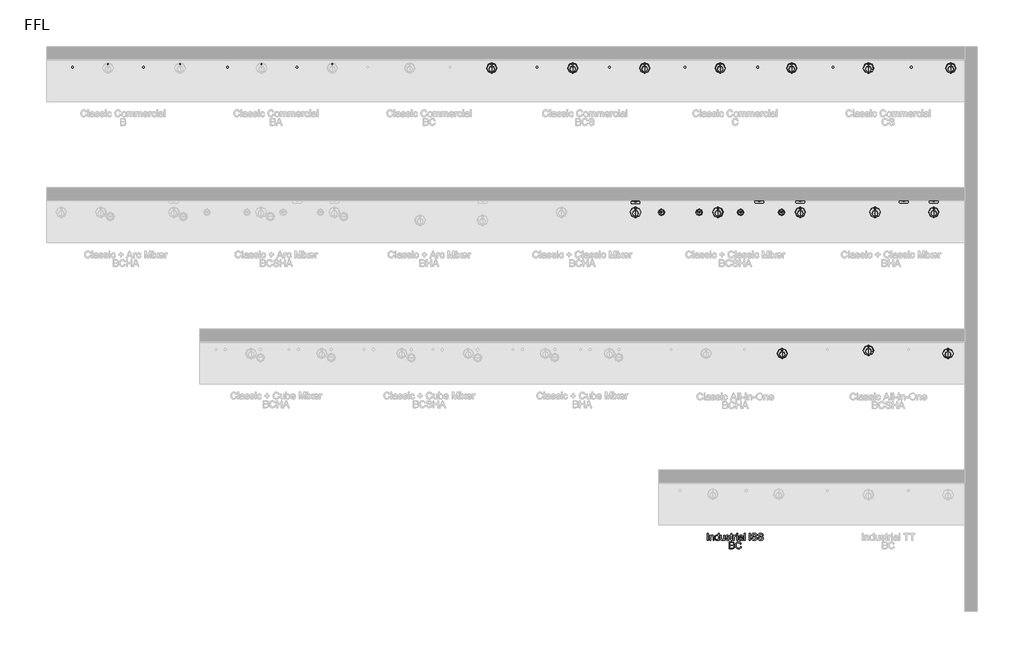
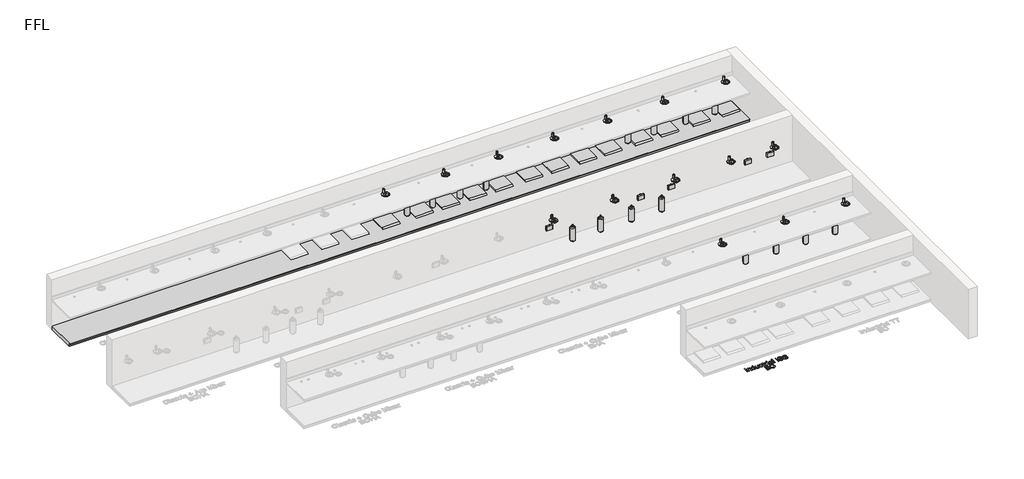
# One storey, part 4 of 13: 61 flow terminals, 1 furniture element, 1 proxy.
"""IFC4 building model written with IfcOpenShell, lengths in millimetres."""

from ifc_helpers import new_model, si_unit, origin, origin_with_axes, place, context, project, spatial, polyline, outline, extrude, transform, mapped, element, save
from components import flow_terminal_1fd3c137, bcs_and_bc_6de74493, bright_chrome_07e2d693, co2_gas_cylinder_20234e14, generic_plinth_900mm_a81356e5

model = new_model("IFC4")

# Units and contexts
model_context = context("Model", 3, world=origin())
ifc_project = project(units=[si_unit("LENGTHUNIT", "METRE", prefix="MILLI")], contexts=[model_context])

# Site, building, storey
site = spatial("IfcSite", under=ifc_project)
building = spatial("IfcBuilding", under=site)
storey = spatial("IfcBuildingStorey", under=building, Name="FFL", Elevation=0.0)

# Proxy
placement = place(None, origin())
element("IfcBuildingElementProxy", 1, Name="150mm Arial", ObjectType="150mm Arial", at=placement, inside=storey, context=model_context, shape_type="SweptSolid", body=[
    extrude(outline(polyline([(7062.8534255, -2376.1981691), (7062.8534255, -2228.5058614), (7081.314964, -2228.5058614), (7081.314964, -2376.1981691), (7062.8534255, -2376.1981691)])), origin_with_axes(), (0.0, 0.0, 1.0), 5.0),
    extrude(outline(polyline([(7115.9303486, -2376.1981691), (7115.9303486, -2267.7366307), (7134.3918871, -2267.7366307), (7134.3918871, -2282.8808614), (7148.5084736, -2269.7919191), (7167.7813102, -2265.4289383), (7185.2152044, -2268.9445633), (7197.1142428, -2278.1753326), (7202.6490986, -2291.7510537), (7203.6226563, -2309.5996114), (7203.6226563, -2376.1981691), (7185.1611178, -2376.1981691), (7185.1611178, -2312.0875922), (7183.033714, -2295.7534576), (7175.5156852, -2287.1176403), (7162.8414063, -2283.8904768), (7152.0286058, -2285.7023758), (7142.8113582, -2291.138073), (7136.4967549, -2301.6398758), (7134.3918871, -2318.6500922), (7134.3918871, -2376.1981691), (7115.9303486, -2376.1981691)])), origin_with_axes(), (0.0, 0.0, 1.0), 5.0),
    extrude(outline(polyline([(7295.9303486, -2376.1981691), (7295.9303486, -2358.7823037), (7283.7158053, -2373.574972), (7266.8317909, -2378.5058614), (7254.8966948, -2376.7210057), (7243.971214, -2371.3664383), (7234.7224159, -2362.8162581), (7227.8173678, -2351.4445633), (7223.517488, -2337.7110898), (7222.0841948, -2322.075573), (7227.3666467, -2292.6885537), (7233.9652044, -2281.0329047), (7243.1959736, -2272.4601883), (7254.3603366, -2267.1867508), (7266.7596755, -2265.4289383), (7283.7789063, -2270.4589864), (7295.9303486, -2283.5298999), (7295.9303486, -2228.5058614), (7314.3918871, -2228.5058614), (7314.3918871, -2376.1981691), (7295.9303486, -2376.1981691)]), holes=[polyline([(7240.5457332, -2322.0034576), (7242.628065, -2338.7026763), (7248.8750602, -2350.5791787), (7257.9525842, -2357.6780369), (7268.5265025, -2360.044323), (7279.0959135, -2357.78621), (7287.9435698, -2351.011871), (7293.9336539, -2339.5951042), (7295.9303486, -2323.4097076), (7293.8975962, -2305.7143951), (7287.799339, -2293.4457653), (7278.7263222, -2286.2792989), (7267.7692909, -2283.8904768), (7257.0871996, -2286.1846475), (7248.3341948, -2293.0671595), (7242.4928486, -2304.8895754), (7240.5457332, -2322.0034576)])]), origin_with_axes(), (0.0, 0.0, 1.0), 5.0),
    extrude(outline(polyline([(7411.314964, -2376.1981691), (7411.314964, -2357.5563422), (7396.8558294, -2373.2684816), (7377.9976563, -2378.5058614), (7360.6358775, -2374.8279768), (7348.6647236, -2365.5972076), (7343.1659255, -2352.0034576), (7342.0841948, -2334.839996), (7342.0841948, -2267.7366307), (7360.5457332, -2267.7366307), (7360.5457332, -2326.1500922), (7361.6635217, -2344.9722076), (7368.9652044, -2356.0238903), (7382.721214, -2360.044323), (7398.1358775, -2355.933746), (7408.3221755, -2344.7378326), (7411.314964, -2324.1669191), (7411.314964, -2267.7366307), (7429.7765025, -2267.7366307), (7429.7765025, -2376.1981691), (7411.314964, -2376.1981691)])), origin_with_axes(), (0.0, 0.0, 1.0), 5.0),
    extrude(outline(polyline([(7448.2380409, -2343.8904768), (7466.6995794, -2341.5827845), (7469.611238, -2349.4794191), (7475.2452525, -2355.2847076), (7494.8245794, -2360.044323), (7513.6466948, -2355.6813422), (7519.7765025, -2345.4409576), (7513.6106371, -2337.1476883), (7494.6082332, -2331.8832653), (7466.8077525, -2322.8508133), (7454.674339, -2312.3039383), (7450.5457332, -2297.4121114), (7453.8630409, -2283.6561018), (7462.9135217, -2273.1452845), (7474.6503005, -2267.6825441), (7490.533714, -2265.4289383), (7512.9976563, -2269.0527364), (7527.2765025, -2278.8604287), (7533.6226563, -2295.4289383), (7515.1611178, -2297.7366307), (7508.2200121, -2287.5503326), (7491.9760217, -2283.8904768), (7474.3077525, -2287.388073), (7469.0072717, -2295.5371114), (7471.2067909, -2300.9097076), (7478.0938102, -2304.9842268), (7493.9952525, -2308.9145153), (7521.0926082, -2317.6044191), (7533.6767428, -2327.4481691), (7538.2380409, -2343.4938422), (7532.8834736, -2361.1621114), (7517.4327525, -2373.980621), (7494.5721755, -2378.5058614), (7475.9573919, -2376.324371), (7462.3726563, -2369.7798999), (7453.3041467, -2358.9445633), (7448.2380409, -2343.8904768)])), origin_with_axes(), (0.0, 0.0, 1.0), 5.0),
    extrude(outline(polyline([(7598.2380409, -2360.8015345), (7600.5457332, -2376.7390345), (7586.7356371, -2378.5058614), (7571.2668871, -2375.4409576), (7563.5505409, -2367.4000922), (7561.314964, -2346.450573), (7561.314964, -2286.1981691), (7547.4688102, -2286.1981691), (7547.4688102, -2267.7366307), (7561.314964, -2267.7366307), (7561.314964, -2241.3784576), (7579.7765025, -2230.5250922), (7579.7765025, -2267.7366307), (7598.2380409, -2267.7366307), (7598.2380409, -2286.1981691), (7579.7765025, -2286.1981691), (7579.7765025, -2345.9097076), (7580.7500602, -2355.4289383), (7583.9051082, -2358.8003326), (7590.1971755, -2360.044323), (7598.2380409, -2360.8015345)])), origin_with_axes(), (0.0, 0.0, 1.0), 5.0),
    extrude(outline(polyline([(7616.6995794, -2376.1981691), (7616.6995794, -2267.7366307), (7632.8534255, -2267.7366307), (7632.8534255, -2283.7823037), (7644.3197717, -2268.9986499), (7655.8582332, -2265.4289383), (7674.3918871, -2271.1260537), (7668.2260217, -2287.6765345), (7655.2452525, -2283.8904768), (7644.8065505, -2287.5323037), (7638.1539063, -2297.6284576), (7635.1611178, -2319.1909576), (7635.1611178, -2376.1981691), (7616.6995794, -2376.1981691)])), origin_with_axes(), (0.0, 0.0, 1.0), 5.0),
    extrude(outline(polyline([(7685.9303486, -2376.1981691), (7685.9303486, -2267.7366307), (7704.3918871, -2267.7366307), (7704.3918871, -2376.1981691), (7685.9303486, -2376.1981691)])), origin_with_axes(), (0.0, 0.0, 1.0), 5.0),
    extrude(outline(polyline([(7685.9303486, -2246.9673999), (7685.9303486, -2228.5058614), (7704.3918871, -2228.5058614), (7704.3918871, -2246.9673999), (7685.9303486, -2246.9673999)])), origin_with_axes(), (0.0, 0.0, 1.0), 5.0),
    extrude(outline(polyline([(7801.314964, -2362.3520153), (7783.4123198, -2374.8640345), (7763.6346755, -2378.5058614), (7748.2064904, -2376.3153566), (7736.8257813, -2369.7438422), (7729.8080529, -2359.7648758), (7727.4688102, -2347.3520153), (7731.002464, -2332.7486499), (7740.2873198, -2322.1476883), (7753.2140025, -2316.089996), (7769.1875602, -2313.3135537), (7801.2067909, -2306.9673999), (7801.314964, -2302.856823), (7800.0439303, -2294.6176403), (7796.2308294, -2289.2270153), (7787.7031852, -2285.2246114), (7775.8221755, -2283.8904768), (7757.1442909, -2287.4421595), (7748.2380409, -2300.044323), (7729.7765025, -2297.7366307), (7737.7632813, -2279.7077845), (7753.8450121, -2269.1428807), (7778.2019832, -2265.4289383), (7800.5757813, -2268.7101883), (7813.2140025, -2276.949371), (7818.8750602, -2289.4794191), (7819.7765025, -2305.6332653), (7819.7765025, -2328.6020153), (7820.7140025, -2360.6753326), (7824.3918871, -2376.1981691), (7805.9303486, -2376.1981691), (7801.314964, -2362.3520153)]), holes=[polyline([(7801.314964, -2325.4289383), (7771.5313102, -2331.089996), (7755.6478967, -2334.0827845), (7748.4543871, -2338.950573), (7745.9303486, -2346.0539383), (7751.4291467, -2356.0419191), (7767.564964, -2360.044323), (7786.2428486, -2355.6272557), (7798.2861178, -2344.9361499), (7801.2067909, -2330.6573037), (7801.314964, -2325.4289383)])]), origin_with_axes(), (0.0, 0.0, 1.0), 5.0),
    extrude(outline(polyline([(7845.1611178, -2376.1981691), (7845.1611178, -2228.5058614), (7863.6226563, -2228.5058614), (7863.6226563, -2376.1981691), (7845.1611178, -2376.1981691)])), origin_with_axes(), (0.0, 0.0, 1.0), 5.0),
    extrude(outline(polyline([(7953.6226563, -2376.1981691), (7953.6226563, -2228.5058614), (7972.0841948, -2228.5058614), (7972.0841948, -2376.1981691), (7953.6226563, -2376.1981691)])), origin_with_axes(), (0.0, 0.0, 1.0), 5.0),
    extrude(outline(polyline([(8002.0841948, -2325.4289383), (8020.5457332, -2325.4289383), (8026.4952525, -2343.9085057), (8041.0265025, -2355.591198), (8063.1659255, -2360.044323), (8082.4567909, -2356.6729287), (8094.9147236, -2347.4061018), (8099.0072717, -2335.0202845), (8095.9423678, -2323.4998518), (8083.3942909, -2315.1164383), (8056.5132813, -2308.0671595), (8027.5769832, -2298.9625922), (8011.8738582, -2285.2246114), (8006.6995794, -2266.871246), (8008.2996395, -2256.0584456), (8013.0998198, -2245.9758133), (8020.9739183, -2237.4301403), (8031.7957332, -2231.2282172), (8059.1635217, -2226.1981691), (8088.3702525, -2231.4625922), (8099.5661659, -2237.9619912), (8107.8414063, -2246.9313422), (8113.0787861, -2257.8117508), (8115.1611178, -2270.044323), (8096.6995794, -2270.044323), (8093.3101563, -2259.028698), (8086.2428486, -2251.0779768), (8075.2001803, -2246.2642749), (8059.8846755, -2244.6597076), (8044.2085938, -2246.246246), (8033.4543871, -2251.0058614), (8027.2344352, -2258.0100682), (8025.1611178, -2266.3303807), (8026.6304688, -2273.4247316), (8031.0385217, -2279.1308614), (8061.1827525, -2289.4433614), (8093.8510217, -2298.7101883), (8104.3753606, -2305.4079047), (8111.7176082, -2313.6741307), (8117.4688102, -2334.5515345), (8115.8146635, -2345.9322436), (8110.8522236, -2356.636871), (8102.784315, -2365.8496114), (8091.8137621, -2372.7546595), (8063.8870794, -2378.5058614), (8045.7996395, -2376.9553807), (8030.9123198, -2372.3039383), (8019.0538462, -2364.5335057), (8010.0529448, -2353.6260537), (8004.2746996, -2340.3387941), (8002.0841948, -2325.4289383)])), origin_with_axes(), (0.0, 0.0, 1.0), 5.0),
    extrude(outline(polyline([(8138.2380409, -2325.4289383), (8156.6995794, -2325.4289383), (8162.6490986, -2343.9085057), (8177.1803486, -2355.591198), (8199.3197717, -2360.044323), (8218.6106371, -2356.6729287), (8231.0685698, -2347.4061018), (8235.1611178, -2335.0202845), (8232.096214, -2323.4998518), (8219.5481371, -2315.1164383), (8192.6671275, -2308.0671595), (8163.7308294, -2298.9625922), (8148.0277044, -2285.2246114), (8142.8534255, -2266.871246), (8144.4534856, -2256.0584456), (8149.2536659, -2245.9758133), (8157.1277645, -2237.4301403), (8167.9495794, -2231.2282172), (8195.3173678, -2226.1981691), (8224.5240986, -2231.4625922), (8235.7200121, -2237.9619912), (8243.9952525, -2246.9313422), (8249.2326323, -2257.8117508), (8251.314964, -2270.044323), (8232.8534255, -2270.044323), (8229.4640025, -2259.028698), (8222.3966948, -2251.0779768), (8211.3540265, -2246.2642749), (8196.0385217, -2244.6597076), (8180.36244, -2246.246246), (8169.6082332, -2251.0058614), (8163.3882813, -2258.0100682), (8161.314964, -2266.3303807), (8162.784315, -2273.4247316), (8167.1923678, -2279.1308614), (8197.3365986, -2289.4433614), (8230.0048678, -2298.7101883), (8240.5292068, -2305.4079047), (8247.8714544, -2313.6741307), (8253.6226563, -2334.5515345), (8251.9685097, -2345.9322436), (8247.0060698, -2356.636871), (8238.9381611, -2365.8496114), (8227.9676082, -2372.7546595), (8200.0409255, -2378.5058614), (8181.9534856, -2376.9553807), (8167.0661659, -2372.3039383), (8155.2076924, -2364.5335057), (8146.2067909, -2353.6260537), (8140.4285457, -2340.3387941), (8138.2380409, -2325.4289383)])), origin_with_axes(), (0.0, 0.0, 1.0), 5.0),
    extrude(outline(polyline([(7529.0072717, -2558.5058614), (7529.0072717, -2410.8135537), (7585.3654448, -2410.8135537), (7612.9676082, -2415.1585057), (7622.2434496, -2420.6708254), (7629.2656852, -2428.5178807), (7635.1611178, -2447.4121114), (7630.2031852, -2464.6657172), (7615.221214, -2477.7366307), (7625.682452, -2483.199371), (7633.4123198, -2491.5106691), (7638.1854568, -2502.1206451), (7639.7765025, -2514.4794191), (7635.4315505, -2534.3291787), (7624.6683294, -2548.4637941), (7608.6046275, -2555.9637941), (7584.9327525, -2558.5058614), (7529.0072717, -2558.5058614)]), holes=[polyline([(7547.4688102, -2540.044323), (7585.3293871, -2540.044323), (7599.0313102, -2539.3231691), (7610.6238582, -2535.3027364), (7618.3041467, -2527.0996114), (7621.314964, -2514.6597076), (7617.7813102, -2500.308746), (7606.3329928, -2491.7450441), (7583.5265025, -2489.2750922), (7547.4688102, -2489.2750922), (7547.4688102, -2540.044323)]), polyline([(7547.4688102, -2470.8135537), (7581.1827525, -2470.8135537), (7600.8702525, -2469.2270153), (7612.7152044, -2462.3940826), (7616.6995794, -2450.3688422), (7612.9856371, -2438.325573), (7602.3486178, -2431.2041787), (7578.6226563, -2429.2750922), (7547.4688102, -2429.2750922), (7547.4688102, -2470.8135537)])]), origin_with_axes(), (0.0, 0.0, 1.0), 5.0),
    extrude(outline(polyline([(7769.0072717, -2506.0058614), (7787.4688102, -2510.7654768), (7778.9501803, -2532.2783975), (7765.5817909, -2547.9950441), (7748.0216948, -2557.6089263), (7726.9279448, -2560.8135537), (7705.5141828, -2558.3886739), (7688.5084736, -2551.1140345), (7675.4736178, -2539.2420393), (7665.9724159, -2523.0250922), (7660.1716347, -2503.9595874), (7658.2380409, -2483.5419191), (7660.4240385, -2462.0064624), (7666.9820313, -2443.4097076), (7677.5694712, -2428.3420994), (7691.8438102, -2417.3940826), (7708.7728967, -2410.7279167), (7727.3245794, -2408.5058614), (7747.5664664, -2411.3814624), (7764.3017428, -2420.0082653), (7777.0075722, -2433.8544191), (7785.1611178, -2452.388073), (7766.6995794, -2456.7871114), (7760.299339, -2443.3240706), (7751.5553486, -2434.0887941), (7740.3594352, -2428.7477484), (7726.6034255, -2426.9673999), (7710.7470553, -2428.9415585), (7697.721214, -2434.8640345), (7687.8368991, -2444.1128326), (7681.4051082, -2456.0659576), (7676.6995794, -2483.5058614), (7682.2704928, -2515.308746), (7689.3918871, -2527.1852484), (7699.6142428, -2535.6272557), (7711.869351, -2540.6708254), (7725.0890025, -2542.3520153), (7740.4991587, -2540.0623518), (7753.3402044, -2533.1933614), (7763.0352164, -2521.8171595), (7769.0072717, -2506.0058614)])), origin_with_axes(), (0.0, 0.0, 1.0), 5.0),
])

# Flow terminals
flow_terminal_shape = flow_terminal_1fd3c137(model_context)
element("IfcFlowTerminal", 2, ObjectType="z_PlumFixt_Zenith_Booster : Booster", at=placement, inside=storey, context=model_context, shape_type="MappedRepresentation", body=[
    mapped(flow_terminal_shape, transform((4980.2647071, 7886.1893304, 538.0), x_axis=(1.0, 0.0, 0.0), y_axis=(0.0, 1.0, 0.0), z_axis=(0.0, 0.0, 1.0))),
])
element("IfcFlowTerminal", 3, ObjectType="z_PlumFixt_Zenith_Booster : Booster", at=placement, inside=storey, context=model_context, shape_type="MappedRepresentation", body=[
    mapped(flow_terminal_shape, transform((5730.2647071, 7886.1893304, 538.0), x_axis=(1.0, 0.0, 0.0), y_axis=(0.0, 1.0, 0.0), z_axis=(0.0, 0.0, 1.0))),
])
element("IfcFlowTerminal", 4, ObjectType="z_PlumFixt_Zenith_Booster : Booster", at=placement, inside=storey, context=model_context, shape_type="MappedRepresentation", body=[
    mapped(flow_terminal_shape, transform((12233.2647071, 7886.1893304, 538.0), x_axis=(1.0, 0.0, 0.0), y_axis=(0.0, 1.0, 0.0), z_axis=(0.0, 0.0, 1.0))),
])
element("IfcFlowTerminal", 5, ObjectType="z_PlumFixt_Zenith_Booster : Booster", at=placement, inside=storey, context=model_context, shape_type="MappedRepresentation", body=[
    mapped(flow_terminal_shape, transform((11393.2647071, 7886.1893304, 538.0), x_axis=(1.0, 0.0, 0.0), y_axis=(0.0, 1.0, 0.0), z_axis=(0.0, 0.0, 1.0))),
])
element("IfcFlowTerminal", 6, ObjectType="z_PlumFixt_Zenith_Booster : Booster", at=placement, inside=storey, context=model_context, shape_type="MappedRepresentation", body=[
    mapped(flow_terminal_shape, transform((10483.2647071, 7886.1893304, 538.0), x_axis=(1.0, 0.0, 0.0), y_axis=(0.0, 1.0, 0.0), z_axis=(0.0, 0.0, 1.0))),
])
element("IfcFlowTerminal", 7, ObjectType="z_PlumFixt_Zenith_Booster : Booster", at=placement, inside=storey, context=model_context, shape_type="MappedRepresentation", body=[
    mapped(flow_terminal_shape, transform((9733.2647071, 7886.1893304, 538.0), x_axis=(1.0, 0.0, 0.0), y_axis=(0.0, 1.0, 0.0), z_axis=(0.0, 0.0, 1.0))),
])
element("IfcFlowTerminal", 8, ObjectType="z_PlumFixt_Zenith_Booster : Booster", at=placement, inside=storey, context=model_context, shape_type="MappedRepresentation", body=[
    mapped(flow_terminal_shape, transform((8853.2647071, 7886.1893304, 538.0), x_axis=(1.0, 0.0, 0.0), y_axis=(0.0, 1.0, 0.0), z_axis=(0.0, 0.0, 1.0))),
])
element("IfcFlowTerminal", 9, ObjectType="z_PlumFixt_Zenith_Booster : Booster", at=placement, inside=storey, context=model_context, shape_type="MappedRepresentation", body=[
    mapped(flow_terminal_shape, transform((8133.2647071, 7886.1893304, 538.0), x_axis=(1.0, 0.0, 0.0), y_axis=(0.0, 1.0, 0.0), z_axis=(0.0, 0.0, 1.0))),
])
element("IfcFlowTerminal", 10, ObjectType="z_PlumFixt_Zenith_Booster : Booster", at=placement, inside=storey, context=model_context, shape_type="MappedRepresentation", body=[
    mapped(flow_terminal_shape, transform((5536.2647071, 4885.3893304, 498.0), x_axis=(1.0, 0.0, 0.0), y_axis=(0.0, 1.0, 0.0), z_axis=(0.0, 0.0, 1.0))),
])
element("IfcFlowTerminal", 11, ObjectType="z_PlumFixt_Zenith_Booster : Booster", at=placement, inside=storey, context=model_context, shape_type="MappedRepresentation", body=[
    mapped(flow_terminal_shape, transform((11873.2647071, 4901.1893304, 498.0), x_axis=(1.0, 0.0, 0.0), y_axis=(0.0, 1.0, 0.0), z_axis=(0.0, 0.0, 1.0))),
])
element("IfcFlowTerminal", 12, ObjectType="z_PlumFixt_Zenith_Booster : Booster", at=placement, inside=storey, context=model_context, shape_type="MappedRepresentation", body=[
    mapped(flow_terminal_shape, transform((11233.2647071, 4901.1893304, 498.0), x_axis=(1.0, 0.0, 0.0), y_axis=(0.0, 1.0, 0.0), z_axis=(0.0, 0.0, 1.0))),
])
element("IfcFlowTerminal", 13, ObjectType="z_PlumFixt_Zenith_Booster : Booster", at=placement, inside=storey, context=model_context, shape_type="MappedRepresentation", body=[
    mapped(flow_terminal_shape, transform((8652.2647071, 1885.3893304, 498.0), x_axis=(1.0, 0.0, 0.0), y_axis=(0.0, 1.0, 0.0), z_axis=(0.0, 0.0, 1.0))),
])
element("IfcFlowTerminal", 14, ObjectType="z_PlumFixt_Zenith_Booster : Booster", at=placement, inside=storey, context=model_context, shape_type="MappedRepresentation", body=[
    mapped(flow_terminal_shape, transform((12173.2647071, 1885.3893304, 498.0), x_axis=(1.0, 0.0, 0.0), y_axis=(0.0, 1.0, 0.0), z_axis=(0.0, 0.0, 1.0))),
])
element("IfcFlowTerminal", 15, ObjectType="z_PlumFixt_Zenith_Booster : Booster", at=placement, inside=storey, context=model_context, shape_type="MappedRepresentation", body=[
    mapped(flow_terminal_shape, transform((11332.2647071, 1885.3893304, 498.0), x_axis=(1.0, 0.0, 0.0), y_axis=(0.0, 1.0, 0.0), z_axis=(0.0, 0.0, 1.0))),
])
element("IfcFlowTerminal", 16, ObjectType="z_PlumFixt_Zenith_Booster : Booster", at=placement, inside=storey, context=model_context, shape_type="MappedRepresentation", body=[
    mapped(flow_terminal_shape, transform((2484.2647071, 7886.1893304, 538.0), x_axis=(1.0, 0.0, 0.0), y_axis=(0.0, 1.0, 0.0), z_axis=(0.0, 0.0, 1.0))),
])
element("IfcFlowTerminal", 17, ObjectType="z_PlumFixt_Zenith_Booster : Booster", at=placement, inside=storey, context=model_context, shape_type="MappedRepresentation", body=[
    mapped(flow_terminal_shape, transform((8166.2647071, 4901.1893304, 498.0), x_axis=(1.0, 0.0, 0.0), y_axis=(0.0, 1.0, 0.0), z_axis=(0.0, 0.0, 1.0))),
])
element("IfcFlowTerminal", 18, ObjectType="z_PlumFixt_Zenith_Booster : Booster", at=placement, inside=storey, context=model_context, shape_type="MappedRepresentation", body=[
    mapped(flow_terminal_shape, transform((9036.2647071, 4901.1893304, 498.0), x_axis=(1.0, 0.0, 0.0), y_axis=(0.0, 1.0, 0.0), z_axis=(0.0, 0.0, 1.0))),
])
bcs_and_bc_shape = bcs_and_bc_6de74493(model_context)
element("IfcFlowTerminal", 19, ObjectType="z_PlumFixt_Zenith_Vent Tray : BCS and BC", at=placement, inside=storey, context=model_context, shape_type="MappedRepresentation", body=[
    mapped(bcs_and_bc_shape, transform((3443.2647071, 7706.6893304, 100.0), x_axis=(1.0, 0.0, 0.0), y_axis=(0.0, 1.0, 0.0), z_axis=(0.0, 0.0, 1.0))),
])
element("IfcFlowTerminal", 20, ObjectType="z_PlumFixt_Zenith_Vent Tray : BCS and BC", at=placement, inside=storey, context=model_context, shape_type="MappedRepresentation", body=[
    mapped(bcs_and_bc_shape, transform((4202.2647071, 7706.6893304, 100.0), x_axis=(1.0, 0.0, 0.0), y_axis=(0.0, 1.0, 0.0), z_axis=(0.0, 0.0, 1.0))),
])
element("IfcFlowTerminal", 21, ObjectType="z_PlumFixt_Zenith_Vent Tray : BCS and BC", at=placement, inside=storey, context=model_context, shape_type="MappedRepresentation", body=[
    mapped(bcs_and_bc_shape, transform((4980.2647071, 7706.6893304, 100.0), x_axis=(1.0, 0.0, 0.0), y_axis=(0.0, 1.0, 0.0), z_axis=(0.0, 0.0, 1.0))),
])
element("IfcFlowTerminal", 22, ObjectType="z_PlumFixt_Zenith_Vent Tray : BCS and BC", at=placement, inside=storey, context=model_context, shape_type="MappedRepresentation", body=[
    mapped(bcs_and_bc_shape, transform((5730.2647071, 7706.6893304, 100.0), x_axis=(1.0, 0.0, 0.0), y_axis=(0.0, 1.0, 0.0), z_axis=(0.0, 0.0, 1.0))),
])
element("IfcFlowTerminal", 23, ObjectType="z_PlumFixt_Zenith_Vent Tray : BCS and BC", at=placement, inside=storey, context=model_context, shape_type="MappedRepresentation", body=[
    mapped(bcs_and_bc_shape, transform((2484.2647071, 7706.6893304, 100.0), x_axis=(1.0, 0.0, 0.0), y_axis=(0.0, 1.0, 0.0), z_axis=(0.0, 0.0, 1.0))),
])
bright_chrome_shape = bright_chrome_07e2d693(model_context)
element("IfcFlowTerminal", 24, ObjectType="z_PlumFixt_Zenith_Font and Tap Riser : Bright Chrome", at=placement, inside=storey, context=model_context, shape_type="MappedRepresentation", body=[
    mapped(bright_chrome_shape, transform((4203.2647071, 7645.4393304, 900.0), x_axis=(1.0, 0.0, 0.0), y_axis=(0.0, 1.0, 0.0), z_axis=(0.0, 0.0, 1.0))),
])
element("IfcFlowTerminal", 25, ObjectType="z_PlumFixt_Zenith_Font and Tap Riser : Bright Chrome", at=placement, inside=storey, context=model_context, shape_type="MappedRepresentation", body=[
    mapped(bright_chrome_shape, transform((10484.2647071, 7645.4393304, 900.0), x_axis=(1.0, 0.0, 0.0), y_axis=(0.0, 1.0, 0.0), z_axis=(0.0, 0.0, 1.0))),
])
element("IfcFlowTerminal", 26, ObjectType="z_PlumFixt_Zenith_Font and Tap Riser : Bright Chrome", at=placement, inside=storey, context=model_context, shape_type="MappedRepresentation", body=[
    mapped(bright_chrome_shape, transform((7334.2647071, 7645.4393304, 900.0), x_axis=(1.0, 0.0, 0.0), y_axis=(0.0, 1.0, 0.0), z_axis=(0.0, 0.0, 1.0))),
])
element("IfcFlowTerminal", 27, ObjectType="z_PlumFixt_Zenith_Font and Tap Riser : Bright Chrome", at=placement, inside=storey, context=model_context, shape_type="MappedRepresentation", body=[
    mapped(bright_chrome_shape, transform((7286.2647071, 4578.9393304, 900.0), x_axis=(1.0, 0.0, 0.0), y_axis=(0.0, 1.0, 0.0), z_axis=(0.0, 0.0, 1.0))),
])
element("IfcFlowTerminal", 28, ObjectType="z_PlumFixt_Zenith_Font and Tap Riser : Bright Chrome", at=placement, inside=storey, context=model_context, shape_type="MappedRepresentation", body=[
    mapped(bright_chrome_shape, transform((10623.2647071, 4578.9393304, 900.0), x_axis=(1.0, 0.0, 0.0), y_axis=(0.0, 1.0, 0.0), z_axis=(0.0, 0.0, 1.0))),
])
element("IfcFlowTerminal", 29, ObjectType="z_PlumFixt_Zenith_Font and Tap Riser : Bright Chrome", at=placement, inside=storey, context=model_context, shape_type="MappedRepresentation", body=[
    mapped(bright_chrome_shape, transform((10484.2647071, 1645.4393304, 900.0), x_axis=(1.0, 0.0, 0.0), y_axis=(0.0, 1.0, 0.0), z_axis=(0.0, 0.0, 1.0))),
])
element("IfcFlowTerminal", 30, ObjectType="z_PlumFixt_Zenith_Font and Tap Riser : Bright Chrome", at=placement, inside=storey, context=model_context, shape_type="MappedRepresentation", body=[
    mapped(bright_chrome_shape, transform((5731.2647071, 7645.4393304, 900.0), x_axis=(1.0, 0.0, 0.0), y_axis=(0.0, 1.0, 0.0), z_axis=(0.0, 0.0, 1.0))),
])
element("IfcFlowTerminal", 31, ObjectType="z_PlumFixt_Zenith_Font and Tap Riser : Bright Chrome", at=placement, inside=storey, context=model_context, shape_type="MappedRepresentation", body=[
    mapped(bright_chrome_shape, transform((2485.2647071, 7645.4393304, 900.0), x_axis=(1.0, 0.0, 0.0), y_axis=(0.0, 1.0, 0.0), z_axis=(0.0, 0.0, 1.0))),
])
element("IfcFlowTerminal", 32, ObjectType="z_PlumFixt_Zenith_Font and Tap Riser : Bright Chrome", at=placement, inside=storey, context=model_context, shape_type="MappedRepresentation", body=[
    mapped(bright_chrome_shape, transform((12234.2647071, 7645.4393304, 900.0), x_axis=(1.0, 0.0, 0.0), y_axis=(0.0, 1.0, 0.0), z_axis=(0.0, 0.0, 1.0))),
])
element("IfcFlowTerminal", 33, ObjectType="z_PlumFixt_Zenith_Font and Tap Riser : Bright Chrome", at=placement, inside=storey, context=model_context, shape_type="MappedRepresentation", body=[
    mapped(bright_chrome_shape, transform((8854.2647071, 7645.4393304, 900.0), x_axis=(1.0, 0.0, 0.0), y_axis=(0.0, 1.0, 0.0), z_axis=(0.0, 0.0, 1.0))),
])
element("IfcFlowTerminal", 34, ObjectType="z_PlumFixt_Zenith_Font and Tap Riser : Bright Chrome", at=placement, inside=storey, context=model_context, shape_type="MappedRepresentation", body=[
    mapped(bright_chrome_shape, transform((9036.2647071, 4578.9393304, 900.0), x_axis=(1.0, 0.0, 0.0), y_axis=(0.0, 1.0, 0.0), z_axis=(0.0, 0.0, 1.0))),
])
element("IfcFlowTerminal", 35, ObjectType="z_PlumFixt_Zenith_Font and Tap Riser : Bright Chrome", at=placement, inside=storey, context=model_context, shape_type="MappedRepresentation", body=[
    mapped(bright_chrome_shape, transform((5536.2647071, 4578.9393304, 900.0), x_axis=(1.0, 0.0, 0.0), y_axis=(0.0, 1.0, 0.0), z_axis=(0.0, 0.0, 1.0))),
])
element("IfcFlowTerminal", 36, ObjectType="z_PlumFixt_Zenith_Font and Tap Riser : Bright Chrome", at=placement, inside=storey, context=model_context, shape_type="MappedRepresentation", body=[
    mapped(bright_chrome_shape, transform((11873.2647071, 4578.9393304, 900.0), x_axis=(1.0, 0.0, 0.0), y_axis=(0.0, 1.0, 0.0), z_axis=(0.0, 0.0, 1.0))),
])
element("IfcFlowTerminal", 37, ObjectType="z_PlumFixt_Zenith_Font and Tap Riser : Bright Chrome", at=placement, inside=storey, context=model_context, shape_type="MappedRepresentation", body=[
    mapped(bright_chrome_shape, transform((8652.2647071, 1578.9393304, 900.0), x_axis=(1.0, 0.0, 0.0), y_axis=(0.0, 1.0, 0.0), z_axis=(0.0, 0.0, 1.0))),
])
element("IfcFlowTerminal", 38, ObjectType="z_PlumFixt_Zenith_Font and Tap Riser : Bright Chrome", at=placement, inside=storey, context=model_context, shape_type="MappedRepresentation", body=[
    mapped(bright_chrome_shape, transform((12173.2647071, 1578.9393304, 900.0), x_axis=(1.0, 0.0, 0.0), y_axis=(0.0, 1.0, 0.0), z_axis=(0.0, 0.0, 1.0))),
])
co2_gas_cylinder_shape = co2_gas_cylinder_20234e14(model_context)
element("IfcFlowTerminal", 39, ObjectType="z_PlumFixt_Zenith_CO2 Gas Cylinder : CO2 Gas Cylinder", at=placement, inside=storey, context=model_context, shape_type="MappedRepresentation", body=[
    mapped(co2_gas_cylinder_shape, transform((3074.2647071, 7685.6893304, 100.0), x_axis=(1.0, 0.0, 0.0), y_axis=(0.0, 1.0, 0.0), z_axis=(0.0, 0.0, 1.0))),
])
element("IfcFlowTerminal", 40, ObjectType="z_PlumFixt_Zenith_CO2 Gas Cylinder : CO2 Gas Cylinder", at=placement, inside=storey, context=model_context, shape_type="MappedRepresentation", body=[
    mapped(co2_gas_cylinder_shape, transform((3805.2647071, 7684.1893304, 100.0), x_axis=(1.0, 0.0, 0.0), y_axis=(0.0, 1.0, 0.0), z_axis=(0.0, 0.0, 1.0))),
])
element("IfcFlowTerminal", 41, ObjectType="z_PlumFixt_Zenith_CO2 Gas Cylinder : CO2 Gas Cylinder", at=placement, inside=storey, context=model_context, shape_type="MappedRepresentation", body=[
    mapped(co2_gas_cylinder_shape, transform((4583.2647071, 7684.1893304, 100.0), x_axis=(1.0, 0.0, 0.0), y_axis=(0.0, 1.0, 0.0), z_axis=(0.0, 0.0, 1.0))),
])
element("IfcFlowTerminal", 42, ObjectType="z_PlumFixt_Zenith_CO2 Gas Cylinder : CO2 Gas Cylinder", at=placement, inside=storey, context=model_context, shape_type="MappedRepresentation", body=[
    mapped(co2_gas_cylinder_shape, transform((5333.2647071, 7684.1893304, 100.0), x_axis=(1.0, 0.0, 0.0), y_axis=(0.0, 1.0, 0.0), z_axis=(0.0, 0.0, 1.0))),
])
element("IfcFlowTerminal", 43, ObjectType="z_PlumFixt_Zenith_CO2 Gas Cylinder : CO2 Gas Cylinder", at=placement, inside=storey, context=model_context, shape_type="MappedRepresentation", body=[
    mapped(co2_gas_cylinder_shape, transform((11895.2647071, 7504.1893304, 100.0), x_axis=(-1.0, 0.0, 0.0), y_axis=(0.0, -1.0, 0.0), z_axis=(0.0, 0.0, 1.0))),
])
element("IfcFlowTerminal", 44, ObjectType="z_PlumFixt_Zenith_CO2 Gas Cylinder : CO2 Gas Cylinder", at=placement, inside=storey, context=model_context, shape_type="MappedRepresentation", body=[
    mapped(co2_gas_cylinder_shape, transform((11055.2647071, 7504.1893304, 100.0), x_axis=(-1.0, 0.0, 0.0), y_axis=(0.0, -1.0, 0.0), z_axis=(0.0, 0.0, 1.0))),
])
element("IfcFlowTerminal", 45, ObjectType="z_PlumFixt_Zenith_CO2 Gas Cylinder : CO2 Gas Cylinder", at=placement, inside=storey, context=model_context, shape_type="MappedRepresentation", body=[
    mapped(co2_gas_cylinder_shape, transform((10145.2647071, 7504.1893304, 100.0), x_axis=(-1.0, 0.0, 0.0), y_axis=(0.0, -1.0, 0.0), z_axis=(0.0, 0.0, 1.0))),
])
element("IfcFlowTerminal", 46, ObjectType="z_PlumFixt_Zenith_CO2 Gas Cylinder : CO2 Gas Cylinder", at=placement, inside=storey, context=model_context, shape_type="MappedRepresentation", body=[
    mapped(co2_gas_cylinder_shape, transform((9395.2647071, 7504.1893304, 100.0), x_axis=(-1.0, 0.0, 0.0), y_axis=(0.0, -1.0, 0.0), z_axis=(0.0, 0.0, 1.0))),
])
element("IfcFlowTerminal", 47, ObjectType="z_PlumFixt_Zenith_CO2 Gas Cylinder : CO2 Gas Cylinder", at=placement, inside=storey, context=model_context, shape_type="MappedRepresentation", body=[
    mapped(co2_gas_cylinder_shape, transform((6086.2647071, 4684.1893304, 100.0), x_axis=(1.0, 0.0, 0.0), y_axis=(0.0, 1.0, 0.0), z_axis=(0.0, 0.0, 1.0))),
])
element("IfcFlowTerminal", 48, ObjectType="z_PlumFixt_Zenith_CO2 Gas Cylinder : CO2 Gas Cylinder", at=placement, inside=storey, context=model_context, shape_type="MappedRepresentation", body=[
    mapped(co2_gas_cylinder_shape, transform((6889.2647071, 4684.1893304, 100.0), x_axis=(1.0, 0.0, 0.0), y_axis=(0.0, 1.0, 0.0), z_axis=(0.0, 0.0, 1.0))),
])
element("IfcFlowTerminal", 49, ObjectType="z_PlumFixt_Zenith_CO2 Gas Cylinder : CO2 Gas Cylinder", at=placement, inside=storey, context=model_context, shape_type="MappedRepresentation", body=[
    mapped(co2_gas_cylinder_shape, transform((7769.2647071, 4684.1893304, 100.0), x_axis=(1.0, 0.0, 0.0), y_axis=(0.0, 1.0, 0.0), z_axis=(0.0, 0.0, 1.0))),
])
element("IfcFlowTerminal", 50, ObjectType="z_PlumFixt_Zenith_CO2 Gas Cylinder : CO2 Gas Cylinder", at=placement, inside=storey, context=model_context, shape_type="MappedRepresentation", body=[
    mapped(co2_gas_cylinder_shape, transform((8639.2647071, 4684.1893304, 100.0), x_axis=(1.0, 0.0, 0.0), y_axis=(0.0, 1.0, 0.0), z_axis=(0.0, 0.0, 1.0))),
])
element("IfcFlowTerminal", 51, ObjectType="z_PlumFixt_Zenith_CO2 Gas Cylinder : CO2 Gas Cylinder", at=placement, inside=storey, context=model_context, shape_type="MappedRepresentation", body=[
    mapped(co2_gas_cylinder_shape, transform((9317.2647071, 1510.1893304, 100.0), x_axis=(-1.0, 0.0, 0.0), y_axis=(0.0, -1.0, 0.0), z_axis=(0.0, 0.0, 1.0))),
])
element("IfcFlowTerminal", 52, ObjectType="z_PlumFixt_Zenith_CO2 Gas Cylinder : CO2 Gas Cylinder", at=placement, inside=storey, context=model_context, shape_type="MappedRepresentation", body=[
    mapped(co2_gas_cylinder_shape, transform((10188.2647071, 1510.1893304, 100.0), x_axis=(-1.0, 0.0, 0.0), y_axis=(0.0, -1.0, 0.0), z_axis=(0.0, 0.0, 1.0))),
])
element("IfcFlowTerminal", 53, ObjectType="z_PlumFixt_Zenith_CO2 Gas Cylinder : CO2 Gas Cylinder", at=placement, inside=storey, context=model_context, shape_type="MappedRepresentation", body=[
    mapped(co2_gas_cylinder_shape, transform((11037.2647071, 1510.1893304, 100.0), x_axis=(-1.0, 0.0, 0.0), y_axis=(0.0, -1.0, 0.0), z_axis=(0.0, 0.0, 1.0))),
])
element("IfcFlowTerminal", 54, ObjectType="z_PlumFixt_Zenith_CO2 Gas Cylinder : CO2 Gas Cylinder", at=placement, inside=storey, context=model_context, shape_type="MappedRepresentation", body=[
    mapped(co2_gas_cylinder_shape, transform((11878.2647071, 1510.1893304, 100.0), x_axis=(-1.0, 0.0, 0.0), y_axis=(0.0, -1.0, 0.0), z_axis=(0.0, 0.0, 1.0))),
])
element("IfcFlowTerminal", 55, ObjectType="z_PlumFixt_Zenith_Vent Tray : CS and C", at=placement, inside=storey, context=model_context, shape_type="MappedRepresentation", body=[
    mapped(bcs_and_bc_shape, transform((12233.2647071, 7706.6893304, 100.0), x_axis=(1.0, 0.0, 0.0), y_axis=(0.0, 1.0, 0.0), z_axis=(0.0, 0.0, 1.0))),
])
element("IfcFlowTerminal", 56, ObjectType="z_PlumFixt_Zenith_Vent Tray : CS and C", at=placement, inside=storey, context=model_context, shape_type="MappedRepresentation", body=[
    mapped(bcs_and_bc_shape, transform((11393.2647071, 7706.6893304, 100.0), x_axis=(1.0, 0.0, 0.0), y_axis=(0.0, 1.0, 0.0), z_axis=(0.0, 0.0, 1.0))),
])
element("IfcFlowTerminal", 57, ObjectType="z_PlumFixt_Zenith_Vent Tray : CS and C", at=placement, inside=storey, context=model_context, shape_type="MappedRepresentation", body=[
    mapped(bcs_and_bc_shape, transform((10483.2647071, 7706.6893304, 100.0), x_axis=(1.0, 0.0, 0.0), y_axis=(0.0, 1.0, 0.0), z_axis=(0.0, 0.0, 1.0))),
])
element("IfcFlowTerminal", 58, ObjectType="z_PlumFixt_Zenith_Vent Tray : CS and C", at=placement, inside=storey, context=model_context, shape_type="MappedRepresentation", body=[
    mapped(bcs_and_bc_shape, transform((9733.2647071, 7706.6893304, 100.0), x_axis=(1.0, 0.0, 0.0), y_axis=(0.0, 1.0, 0.0), z_axis=(0.0, 0.0, 1.0))),
])
element("IfcFlowTerminal", 59, ObjectType="z_PlumFixt_Zenith_Vent Tray : CS and C", at=placement, inside=storey, context=model_context, shape_type="MappedRepresentation", body=[
    mapped(bcs_and_bc_shape, transform((6583.2647071, 7706.6893304, 100.0), x_axis=(1.0, 0.0, 0.0), y_axis=(0.0, 1.0, 0.0), z_axis=(0.0, 0.0, 1.0))),
])
element("IfcFlowTerminal", 60, ObjectType="z_PlumFixt_Zenith_Vent Tray : CS and C", at=placement, inside=storey, context=model_context, shape_type="MappedRepresentation", body=[
    mapped(bcs_and_bc_shape, transform((7333.2647071, 7706.6893304, 100.0), x_axis=(1.0, 0.0, 0.0), y_axis=(0.0, 1.0, 0.0), z_axis=(0.0, 0.0, 1.0))),
])
element("IfcFlowTerminal", 61, ObjectType="z_PlumFixt_Zenith_Vent Tray : CS and C", at=placement, inside=storey, context=model_context, shape_type="MappedRepresentation", body=[
    mapped(bcs_and_bc_shape, transform((8133.2647071, 7706.6893304, 100.0), x_axis=(1.0, 0.0, 0.0), y_axis=(0.0, 1.0, 0.0), z_axis=(0.0, 0.0, 1.0))),
])
element("IfcFlowTerminal", 62, ObjectType="z_PlumFixt_Zenith_Vent Tray : CS and C", at=placement, inside=storey, context=model_context, shape_type="MappedRepresentation", body=[
    mapped(bcs_and_bc_shape, transform((8853.2647071, 7706.6893304, 100.0), x_axis=(1.0, 0.0, 0.0), y_axis=(0.0, 1.0, 0.0), z_axis=(0.0, 0.0, 1.0))),
])

# Furniture
generic_plinth_900mm_shape = generic_plinth_900mm_a81356e5(model_context)
element("IfcFurniture", 63, ObjectType="Generic Plinth : 900mm", at=placement, inside=storey, context=model_context, shape_type="MappedRepresentation", body=[
    mapped(generic_plinth_900mm_shape, transform((2761.5270022, 7848.2393304, 0.0), x_axis=(1.0, 0.0, 0.0), y_axis=(0.0, 1.0, 0.0), z_axis=(0.0, 0.0, 1.0))),
])

save(model, "model.ifc")
